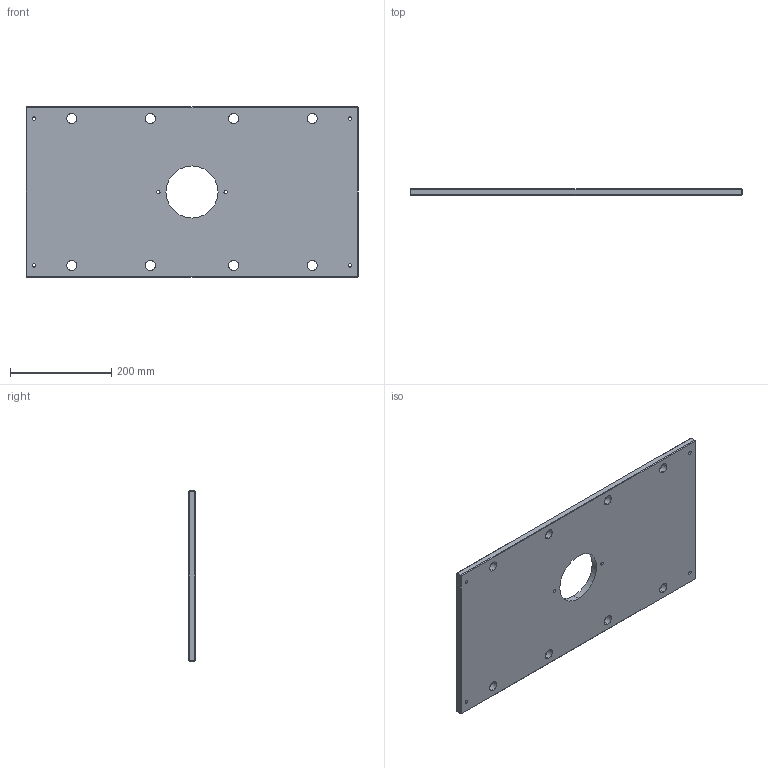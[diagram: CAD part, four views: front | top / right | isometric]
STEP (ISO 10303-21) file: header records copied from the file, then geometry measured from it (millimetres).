
FILE_DESCRIPTION (( 'STEP AP214' ), '1' );
FILE_NAME ('ME-0619-CH-1326.STEP', '2020-02-12T13:49:49', ( '' ), ( '' ), 'SwSTEP 2.0', 'SolidWorks 2018', '' );
FILE_SCHEMA (( 'AUTOMOTIVE_DESIGN' ));
Length unit declared in the file: inch
Products named in the file (1): ME-0619-CH-1326
Bounding box: 657.23 x 12.7 x 336.55 mm (x, y, z)
Volume: 2664217.5 mm3; surface area: 454442.4 mm2
Topology: 1 solids, 1 shells, 68 faces, 162 edges, 96 vertices
Faces by surface type: cylinder 30, plane 26, cone 12
Entity records: 2050 total; most frequent: DIRECTION 372, CARTESIAN_POINT 327, ORIENTED_EDGE 324, EDGE_CURVE 162, AXIS2_PLACEMENT_3D 141, EDGE_LOOP 98, VERTEX_POINT 96, LINE 90
